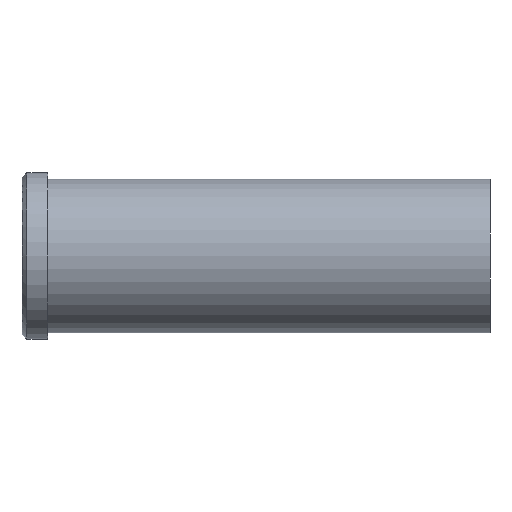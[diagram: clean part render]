
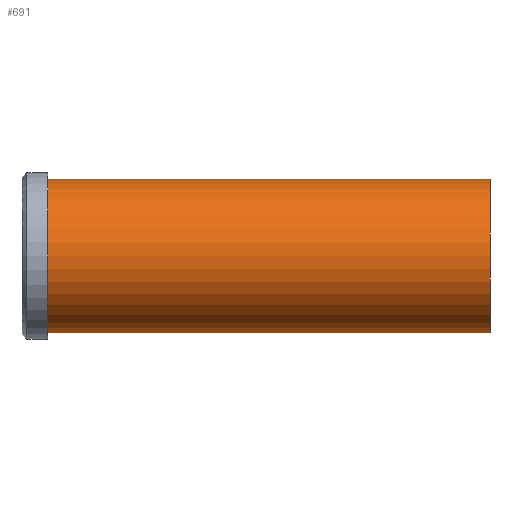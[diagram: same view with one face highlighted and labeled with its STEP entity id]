
A CAD part, front view. The second image highlights one B-rep face of the part: STEP entity #691.
In plain terms, the highlighted cylindrical face has radius 24 mm (diameter 48 mm), a partial arc.
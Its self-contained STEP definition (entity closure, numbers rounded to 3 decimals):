
#501=CARTESIAN_POINT('Vertex',(0.,0.,-24.)) ;
#506=CARTESIAN_POINT('Axis2P3D Location',(0.,0.,0.)) ;
#510=CARTESIAN_POINT('Vertex',(0.,-24.,0.)) ;
#513=CARTESIAN_POINT('Axis2P3D Location',(0.,0.,0.)) ;
#517=CARTESIAN_POINT('Vertex',(0.,0.,24.)) ;
#631=CARTESIAN_POINT('Line Origine',(138.,0.,24.)) ;
#635=CARTESIAN_POINT('Vertex',(138.,0.,24.)) ;
#649=CARTESIAN_POINT('Vertex',(138.,0.,-24.)) ;
#652=CARTESIAN_POINT('Line Origine',(138.,0.,-24.)) ;
#666=CARTESIAN_POINT('Axis2P3D Location',(138.,0.,0.)) ;
#671=CARTESIAN_POINT('Axis2P3D Location',(138.,0.,0.)) ;
#675=CARTESIAN_POINT('Vertex',(138.,-24.,0.)) ;
#678=CARTESIAN_POINT('Axis2P3D Location',(138.,0.,0.)) ;
#507=DIRECTION('Axis2P3D Direction',(1.,0.,-0.)) ;
#514=DIRECTION('Axis2P3D Direction',(1.,0.,-0.)) ;
#632=DIRECTION('Vector Direction',(-1.,0.,0.)) ;
#653=DIRECTION('Vector Direction',(-1.,0.,0.)) ;
#667=DIRECTION('Axis2P3D Direction',(-1.,-0.,-0.)) ;
#668=DIRECTION('Axis2P3D XDirection',(0.,0.,-1.)) ;
#672=DIRECTION('Axis2P3D Direction',(-1.,-0.,-0.)) ;
#679=DIRECTION('Axis2P3D Direction',(-1.,-0.,-0.)) ;
#508=AXIS2_PLACEMENT_3D('Circle Axis2P3D',#506,#507,$) ;
#515=AXIS2_PLACEMENT_3D('Circle Axis2P3D',#513,#514,$) ;
#669=AXIS2_PLACEMENT_3D('Cylinder Axis2P3D',#666,#667,#668) ;
#673=AXIS2_PLACEMENT_3D('Circle Axis2P3D',#671,#672,$) ;
#680=AXIS2_PLACEMENT_3D('Circle Axis2P3D',#678,#679,$) ;
#684=ORIENTED_EDGE('',*,*,#656,.T.) ;
#685=ORIENTED_EDGE('',*,*,#677,.F.) ;
#686=ORIENTED_EDGE('',*,*,#682,.F.) ;
#687=ORIENTED_EDGE('',*,*,#637,.T.) ;
#688=ORIENTED_EDGE('',*,*,#519,.T.) ;
#689=ORIENTED_EDGE('',*,*,#512,.T.) ;
#633=VECTOR('Line Direction',#632,1.) ;
#654=VECTOR('Line Direction',#653,1.) ;
#691=ADVANCED_FACE('353-40X146',(#690),#670,.T.) ;
#509=CIRCLE('generated circle',#508,24.) ;
#516=CIRCLE('generated circle',#515,24.) ;
#674=CIRCLE('generated circle',#673,24.) ;
#681=CIRCLE('generated circle',#680,24.) ;
#670=CYLINDRICAL_SURFACE('generated cylinder',#669,24.) ;
#512=EDGE_CURVE('',#511,#502,#509,.T.) ;
#519=EDGE_CURVE('',#518,#511,#516,.T.) ;
#637=EDGE_CURVE('',#636,#518,#634,.T.) ;
#656=EDGE_CURVE('',#502,#650,#655,.F.) ;
#677=EDGE_CURVE('',#676,#650,#674,.F.) ;
#682=EDGE_CURVE('',#636,#676,#681,.F.) ;
#683=EDGE_LOOP('',(#684,#685,#686,#687,#688,#689)) ;
#690=FACE_OUTER_BOUND('',#683,.T.) ;
#634=LINE('Line',#631,#633) ;
#655=LINE('Line',#652,#654) ;
#502=VERTEX_POINT('',#501) ;
#511=VERTEX_POINT('',#510) ;
#518=VERTEX_POINT('',#517) ;
#636=VERTEX_POINT('',#635) ;
#650=VERTEX_POINT('',#649) ;
#676=VERTEX_POINT('',#675) ;
